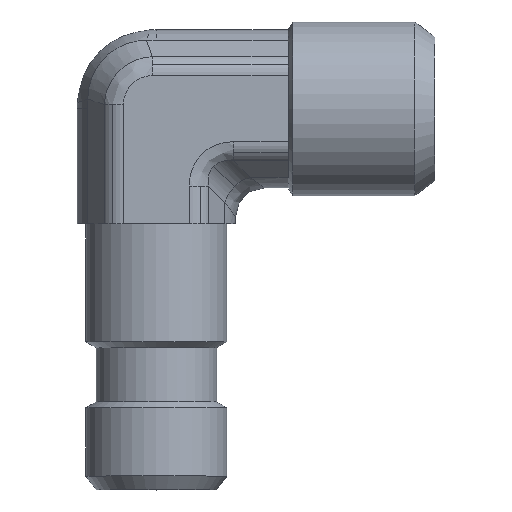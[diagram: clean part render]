
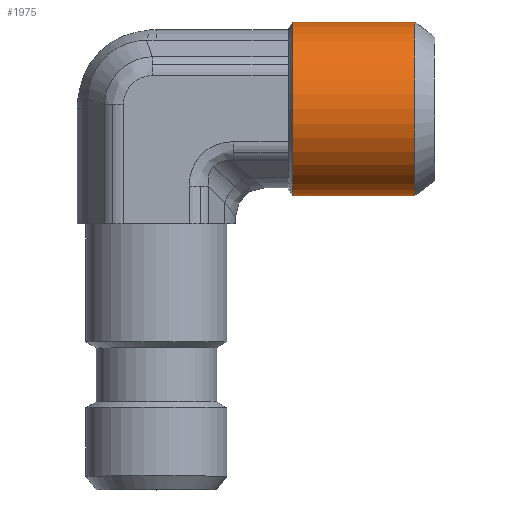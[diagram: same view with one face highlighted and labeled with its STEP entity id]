
A CAD part, top view. The second image highlights one B-rep face of the part: STEP entity #1975.
In plain terms, the highlighted cylindrical face has radius 5.925 mm (diameter 11.85 mm), a partial arc.
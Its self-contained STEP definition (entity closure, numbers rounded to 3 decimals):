
#810=CARTESIAN_POINT('',(1.425,0.,9.303));
#811=VERTEX_POINT('',#810);
#844=CARTESIAN_POINT('',(-10.425,0.,9.303));
#845=VERTEX_POINT('',#844);
#1133=CARTESIAN_POINT('',(1.425,0.,17.64));
#1134=VERTEX_POINT('',#1133);
#1150=CARTESIAN_POINT('',(-10.425,0.,17.64));
#1151=VERTEX_POINT('',#1150);
#1158=CARTESIAN_POINT('',(-4.5,0.,17.64));
#1159=DIRECTION('',(0.0,0.0,1.0));
#1160=DIRECTION('',(1.0,0.0,0.0));
#1161=AXIS2_PLACEMENT_3D('',#1158,#1159,#1160);
#1162=CIRCLE('',#1161,5.925);
#1163=EDGE_CURVE('',#1151,#1134,#1162,.T.);
#1227=CARTESIAN_POINT('',(1.425,0.,9.303));
#1228=DIRECTION('',(0.0,0.0,1.0));
#1229=VECTOR('',#1228,8.337);
#1230=LINE('',#1227,#1229);
#1231=EDGE_CURVE('',#811,#1134,#1230,.T.);
#1234=CARTESIAN_POINT('',(-10.425,0.,17.64));
#1235=DIRECTION('',(0.0,0.0,-1.0));
#1236=VECTOR('',#1235,8.337);
#1237=LINE('',#1234,#1236);
#1238=EDGE_CURVE('',#1151,#845,#1237,.T.);
#1958=CARTESIAN_POINT('',(-4.5,0.,20.5));
#1959=DIRECTION('',(0.,0.,-1.0));
#1960=DIRECTION('',(1.0,0.0,0.0));
#1961=AXIS2_PLACEMENT_3D('',#1958,#1959,#1960);
#1962=CYLINDRICAL_SURFACE('',#1961,5.925);
#1963=ORIENTED_EDGE('',*,*,#1231,.T.);
#1964=ORIENTED_EDGE('',*,*,#1163,.F.);
#1965=ORIENTED_EDGE('',*,*,#1238,.T.);
#1966=CARTESIAN_POINT('',(-4.5,0.,9.303));
#1967=DIRECTION('',(0.0,0.0,-1.0));
#1968=DIRECTION('',(-1.0,0.0,0.0));
#1969=AXIS2_PLACEMENT_3D('',#1966,#1967,#1968);
#1970=CIRCLE('',#1969,5.925);
#1971=EDGE_CURVE('',#811,#845,#1970,.T.);
#1972=ORIENTED_EDGE('',*,*,#1971,.F.);
#1973=EDGE_LOOP('',(#1963,#1964,#1965,#1972));
#1974=FACE_OUTER_BOUND('',#1973,.T.);
#1975=ADVANCED_FACE('',(#1974),#1962,.T.);
